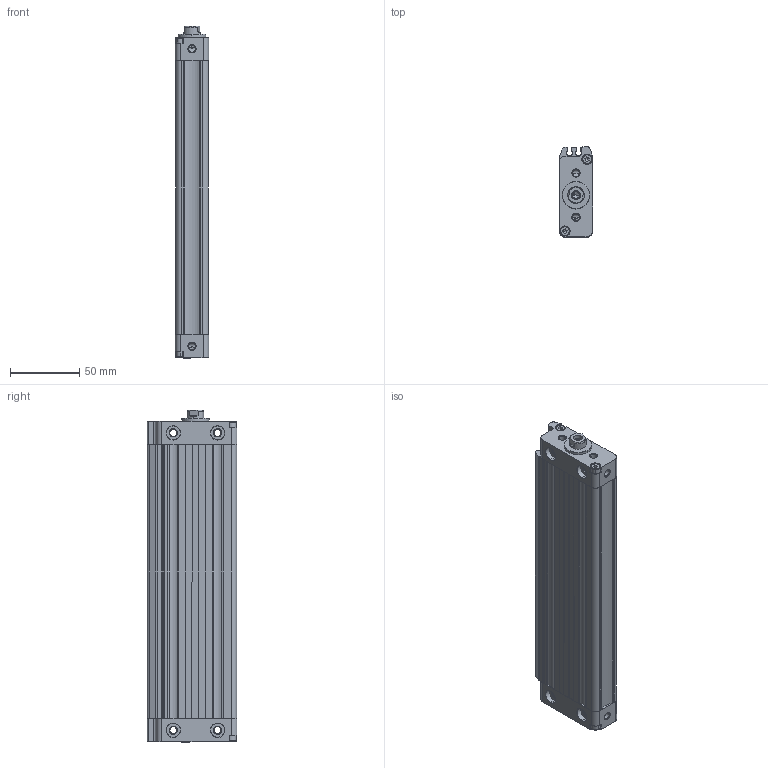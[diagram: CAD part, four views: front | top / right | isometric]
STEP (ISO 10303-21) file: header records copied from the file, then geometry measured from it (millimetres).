
FILE_DESCRIPTION (( 'STEP AP214' ), '1' );
FILE_NAME ('WOC-032-0160 (3D).STEP', '2020-05-21T08:19:30', ( '' ), ( '' ), 'SwSTEP 2.0', 'SolidWorks 2016', '' );
FILE_SCHEMA (( 'AUTOMOTIVE_DESIGN' ));
Length unit declared in the file: millimetre
Products named in the file (5): Group1^WOC-032-0160 (3D); Group3^WOC-032-0160 (3D); Group2^WOC-032-0160 (3D); WOC-032-0160 (3D); Group4^WOC-032-0160 (3D)
Assembly tree (4 placements, depth 2):
  WOC-032-0160 (3D)
    Group1^WOC-032-0160 (3D)
    Group2^WOC-032-0160 (3D)
    Group3^WOC-032-0160 (3D)
    Group4^WOC-032-0160 (3D)
Bounding box: 24 x 65 x 240 mm (x, y, z)
Volume: 211935.7 mm3; surface area: 90319.8 mm2
Topology: 10 solids, 10 shells, 646 faces, 1648 edges, 1054 vertices
Faces by surface type: plane 313, cylinder 149, bspline 96, cone 88
Entity records: 26905 total; most frequent: CARTESIAN_POINT 9266, ORIENTED_EDGE 3272, DIRECTION 2920, EDGE_CURVE 1636, VERTEX_POINT 1054, VECTOR 1014, LINE 1014, AXIS2_PLACEMENT_3D 953
